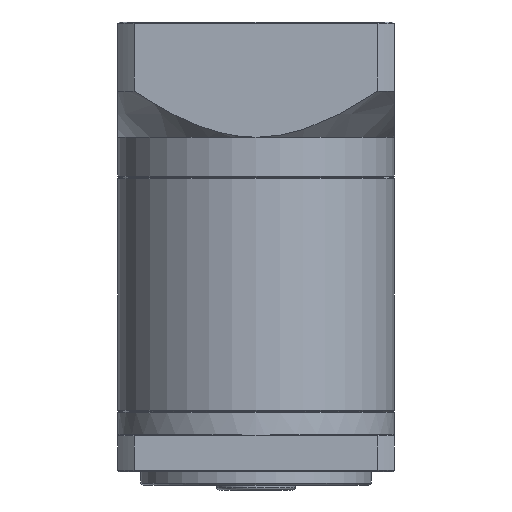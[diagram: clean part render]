
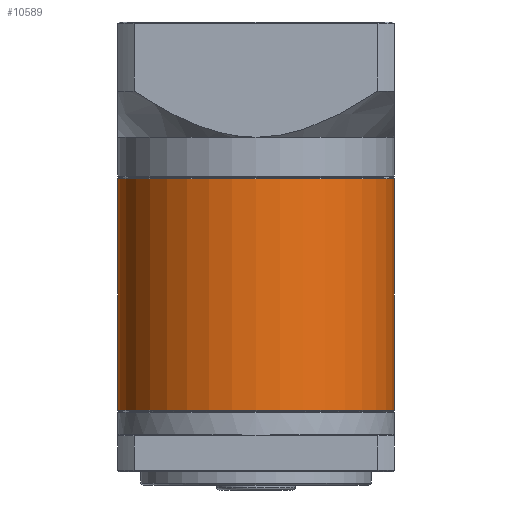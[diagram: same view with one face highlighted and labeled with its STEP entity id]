
A CAD part, front view. The second image highlights one B-rep face of the part: STEP entity #10589.
In plain terms, the highlighted cylindrical face has radius 30 mm (diameter 60 mm), a partial arc.
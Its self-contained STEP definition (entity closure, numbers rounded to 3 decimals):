
#660 = ORIENTED_EDGE ( 'NONE', *, *, #14306, .F. ) ;
#7728 = CARTESIAN_POINT ( 'NONE',  ( -2.968, 26.169, -40.242 ) ) ;
#8859 = VECTOR ( 'NONE', #70374, 1000. ) ;
#9517 = VECTOR ( 'NONE', #15532, 1000. ) ;
#10589 = ADVANCED_FACE ( 'NONE', ( #41828 ), #13071, .T. ) ;
#13071 = CYLINDRICAL_SURFACE ( 'NONE', #93260, 30. ) ;
#14306 = EDGE_CURVE ( 'NONE', #26373, #71754, #22289, .T. ) ;
#14587 = DIRECTION ( 'NONE',  ( 0., 0., -1. ) ) ;
#15532 = DIRECTION ( 'NONE',  ( 0., 0., -1. ) ) ;
#16751 = VERTEX_POINT ( 'NONE', #43718 ) ;
#22289 = LINE ( 'NONE', #7728, #9517 ) ;
#26373 = VERTEX_POINT ( 'NONE', #65852 ) ;
#28873 = CIRCLE ( 'NONE', #53059, 30. ) ;
#29234 = CARTESIAN_POINT ( 'NONE',  ( -32.968, 26.169, -40.242 ) ) ;
#29710 = AXIS2_PLACEMENT_3D ( 'NONE', #73838, #66653, #50389 ) ;
#30488 = CIRCLE ( 'NONE', #29710, 30. ) ;
#34520 = ORIENTED_EDGE ( 'NONE', *, *, #37233, .T. ) ;
#35994 = EDGE_CURVE ( 'NONE', #95578, #71754, #30488, .T. ) ;
#37233 = EDGE_CURVE ( 'NONE', #26373, #16751, #28873, .T. ) ;
#40312 = DIRECTION ( 'NONE',  ( 0., 0., -1. ) ) ;
#41828 = FACE_OUTER_BOUND ( 'NONE', #68197, .T. ) ;
#43718 = CARTESIAN_POINT ( 'NONE',  ( -62.968, 26.169, -40.492 ) ) ;
#45087 = LINE ( 'NONE', #79935, #8859 ) ;
#47254 = EDGE_CURVE ( 'NONE', #16751, #95578, #45087, .T. ) ;
#50389 = DIRECTION ( 'NONE',  ( 1., 0., 0. ) ) ;
#53059 = AXIS2_PLACEMENT_3D ( 'NONE', #85035, #40312, #92918 ) ;
#59101 = CARTESIAN_POINT ( 'NONE',  ( -2.968, 26.169, -90.792 ) ) ;
#65579 = CARTESIAN_POINT ( 'NONE',  ( -62.968, 26.169, -90.792 ) ) ;
#65852 = CARTESIAN_POINT ( 'NONE',  ( -2.968, 26.169, -40.492 ) ) ;
#66653 = DIRECTION ( 'NONE',  ( 0., 0., 1. ) ) ;
#68197 = EDGE_LOOP ( 'NONE', ( #660, #34520, #82817, #90266 ) ) ;
#70374 = DIRECTION ( 'NONE',  ( 0., 0., -1. ) ) ;
#71754 = VERTEX_POINT ( 'NONE', #59101 ) ;
#73838 = CARTESIAN_POINT ( 'NONE',  ( -32.968, 26.169, -90.792 ) ) ;
#79935 = CARTESIAN_POINT ( 'NONE',  ( -62.968, 26.169, -40.242 ) ) ;
#82817 = ORIENTED_EDGE ( 'NONE', *, *, #47254, .T. ) ;
#85035 = CARTESIAN_POINT ( 'NONE',  ( -32.968, 26.169, -40.492 ) ) ;
#89018 = DIRECTION ( 'NONE',  ( -1., 0., 0. ) ) ;
#90266 = ORIENTED_EDGE ( 'NONE', *, *, #35994, .T. ) ;
#92918 = DIRECTION ( 'NONE',  ( 1., 0., 0. ) ) ;
#93260 = AXIS2_PLACEMENT_3D ( 'NONE', #29234, #14587, #89018 ) ;
#95578 = VERTEX_POINT ( 'NONE', #65579 ) ;
